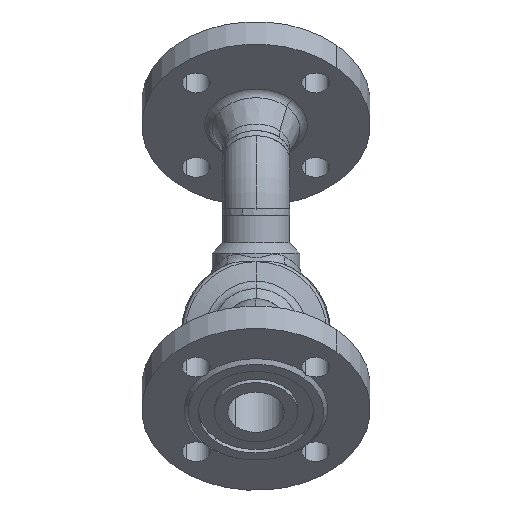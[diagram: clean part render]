
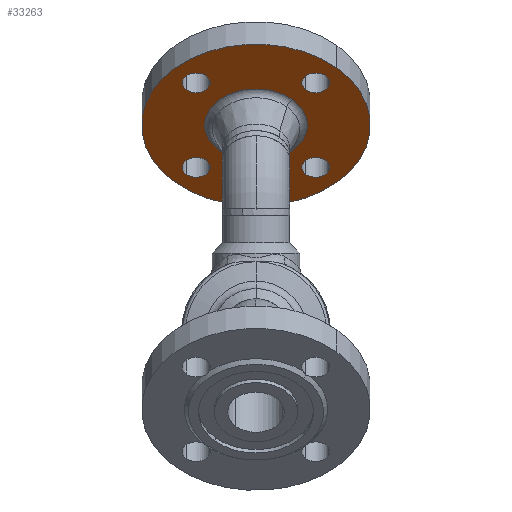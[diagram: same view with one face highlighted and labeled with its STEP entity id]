
A CAD part, front view. The second image highlights one B-rep face of the part: STEP entity #33263.
In plain terms, the highlighted planar face has unit normal (0, -0.707, -0.707) as drawn and (0, 1, 0) by its records, which use the part's own axes.
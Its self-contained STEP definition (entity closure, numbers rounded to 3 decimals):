
#151 = ORIENTED_EDGE ( 'NONE', *, *, #5620, .F. ) ;
#33109 = EDGE_CURVE ( 'NONE', #16860, #2327, #46082, .T. ) ;
#49539 = VERTEX_POINT ( 'NONE', #33256 ) ;
#16860 = VERTEX_POINT ( 'NONE', #31614 ) ;
#33256 = CARTESIAN_POINT ( 'NONE',  ( 35.5, 18., 0. ) ) ;
#33263 = ADVANCED_FACE ( 'NONE', ( #46277, #46278, #46279, #46280, #46281, #46282 ), #46283, .F. ) ;
#1110 = EDGE_CURVE ( 'NONE', #9561, #2633, #40113, .T. ) ;
#17508 = ORIENTED_EDGE ( 'NONE', *, *, #19977, .F. ) ;
#1266 = CARTESIAN_POINT ( 'NONE',  ( -25.748, 18., 0. ) ) ;
#34115 = ORIENTED_EDGE ( 'NONE', *, *, #33109, .T. ) ;
#1970 = VERTEX_POINT ( 'NONE', #1266 ) ;
#18468 = EDGE_LOOP ( 'NONE', ( #13672, #11791 ) ) ;
#18470 = ORIENTED_EDGE ( 'NONE', *, *, #45045, .F. ) ;
#2327 = VERTEX_POINT ( 'NONE', #11945 ) ;
#18921 = ORIENTED_EDGE ( 'NONE', *, *, #1110, .F. ) ;
#2581 = EDGE_CURVE ( 'NONE', #49539, #3188, #12365, .T. ) ;
#2633 = VERTEX_POINT ( 'NONE', #12407 ) ;
#35524 = ORIENTED_EDGE ( 'NONE', *, *, #6436, .T. ) ;
#19526 = EDGE_LOOP ( 'NONE', ( #18470, #14534 ) ) ;
#3188 = VERTEX_POINT ( 'NONE', #12769 ) ;
#19977 = EDGE_CURVE ( 'NONE', #2633, #9561, #44081, .T. ) ;
#3744 = EDGE_CURVE ( 'NONE', #41959, #1970, #12975, .T. ) ;
#21396 = VERTEX_POINT ( 'NONE', #7794 ) ;
#5111 = VERTEX_POINT ( 'NONE', #21764 ) ;
#21764 = CARTESIAN_POINT ( 'NONE',  ( -7., 18., 42.5 ) ) ;
#5620 = EDGE_CURVE ( 'NONE', #38418, #5111, #22212, .T. ) ;
#38418 = VERTEX_POINT ( 'NONE', #29096 ) ;
#22159 = ORIENTED_EDGE ( 'NONE', *, *, #2581, .F. ) ;
#22212 = CIRCLE ( 'NONE', #22213, 7. ) ;
#22213 = AXIS2_PLACEMENT_3D ( 'NONE', #22214, #22215, #22216 ) ;
#22214 = CARTESIAN_POINT ( 'NONE',  ( 0., 18., 42.5 ) ) ;
#22215 = DIRECTION ( 'NONE',  ( 0., 1., 0. ) ) ;
#22216 = DIRECTION ( 'NONE',  ( 0., 0., -1. ) ) ;
#22461 = CIRCLE ( 'NONE', #22462, 7. ) ;
#22462 = AXIS2_PLACEMENT_3D ( 'NONE', #22463, #22464, #22465 ) ;
#22463 = CARTESIAN_POINT ( 'NONE',  ( 0., 18., 42.5 ) ) ;
#22464 = DIRECTION ( 'NONE',  ( 0., 1., 0. ) ) ;
#22465 = DIRECTION ( 'NONE',  ( 0., 0., -1. ) ) ;
#6436 = EDGE_CURVE ( 'NONE', #2327, #16860, #44718, .T. ) ;
#39241 = EDGE_CURVE ( 'NONE', #3188, #49539, #30005, .T. ) ;
#6630 = CIRCLE ( 'NONE', #6631, 25.748 ) ;
#6631 = AXIS2_PLACEMENT_3D ( 'NONE', #6632, #6633, #6634 ) ;
#6632 = CARTESIAN_POINT ( 'NONE',  ( 0., 18., 0. ) ) ;
#6633 = DIRECTION ( 'NONE',  ( 0., 1., 0. ) ) ;
#6634 = DIRECTION ( 'NONE',  ( -1., 0., 0. ) ) ;
#39895 = CARTESIAN_POINT ( 'NONE',  ( -35.5, 18., 0. ) ) ;
#40113 = CIRCLE ( 'NONE', #40114, 7. ) ;
#40114 = AXIS2_PLACEMENT_3D ( 'NONE', #40149, #40150, #40151 ) ;
#40149 = CARTESIAN_POINT ( 'NONE',  ( 0., 18., -42.5 ) ) ;
#40150 = DIRECTION ( 'NONE',  ( 0., 1., 0. ) ) ;
#40151 = DIRECTION ( 'NONE',  ( 0., 0., 1. ) ) ;
#7794 = CARTESIAN_POINT ( 'NONE',  ( -49.5, 18., 0. ) ) ;
#41959 = VERTEX_POINT ( 'NONE', #32226 ) ;
#9561 = VERTEX_POINT ( 'NONE', #47804 ) ;
#9666 = EDGE_CURVE ( 'NONE', #26787, #21396, #47891, .T. ) ;
#42765 = EDGE_LOOP ( 'NONE', ( #22159, #43883 ) ) ;
#26787 = VERTEX_POINT ( 'NONE', #39895 ) ;
#43883 = ORIENTED_EDGE ( 'NONE', *, *, #39241, .F. ) ;
#44081 = CIRCLE ( 'NONE', #44082, 7. ) ;
#44082 = AXIS2_PLACEMENT_3D ( 'NONE', #44117, #44118, #44119 ) ;
#44117 = CARTESIAN_POINT ( 'NONE',  ( 0., 18., -42.5 ) ) ;
#44118 = DIRECTION ( 'NONE',  ( 0., 1., 0. ) ) ;
#44119 = DIRECTION ( 'NONE',  ( 0., 0., 1. ) ) ;
#11638 = ORIENTED_EDGE ( 'NONE', *, *, #31893, .F. ) ;
#28086 = CIRCLE ( 'NONE', #28087, 7. ) ;
#28087 = AXIS2_PLACEMENT_3D ( 'NONE', #28088, #28089, #28129 ) ;
#28088 = CARTESIAN_POINT ( 'NONE',  ( -42.5, 18., 0. ) ) ;
#28089 = DIRECTION ( 'NONE',  ( 0., 1., 0. ) ) ;
#28129 = DIRECTION ( 'NONE',  ( 1., 0., 0. ) ) ;
#11791 = ORIENTED_EDGE ( 'NONE', *, *, #9666, .F. ) ;
#11945 = CARTESIAN_POINT ( 'NONE',  ( -57.5, 18., 0. ) ) ;
#44718 = CIRCLE ( 'NONE', #44719, 57.5 ) ;
#44719 = AXIS2_PLACEMENT_3D ( 'NONE', #44720, #44721, #44722 ) ;
#44720 = CARTESIAN_POINT ( 'NONE',  ( 0., 18., 0. ) ) ;
#44721 = DIRECTION ( 'NONE',  ( 0., 1., 0. ) ) ;
#44722 = DIRECTION ( 'NONE',  ( -1., 0., 0. ) ) ;
#44892 = EDGE_LOOP ( 'NONE', ( #17508, #18921 ) ) ;
#45045 = EDGE_CURVE ( 'NONE', #1970, #41959, #6630, .T. ) ;
#12365 = CIRCLE ( 'NONE', #12366, 7. ) ;
#12366 = AXIS2_PLACEMENT_3D ( 'NONE', #12367, #12368, #12369 ) ;
#12367 = CARTESIAN_POINT ( 'NONE',  ( 42.5, 18., 0. ) ) ;
#12368 = DIRECTION ( 'NONE',  ( 0., 1., 0. ) ) ;
#12369 = DIRECTION ( 'NONE',  ( -1., 0., 0. ) ) ;
#12407 = CARTESIAN_POINT ( 'NONE',  ( -7., 18., -42.5 ) ) ;
#29096 = CARTESIAN_POINT ( 'NONE',  ( 7., 18., 42.5 ) ) ;
#12755 = EDGE_CURVE ( 'NONE', #21396, #26787, #28086, .T. ) ;
#12769 = CARTESIAN_POINT ( 'NONE',  ( 49.5, 18., 0. ) ) ;
#12975 = CIRCLE ( 'NONE', #12976, 25.748 ) ;
#12976 = AXIS2_PLACEMENT_3D ( 'NONE', #12977, #12978, #12979 ) ;
#12977 = CARTESIAN_POINT ( 'NONE',  ( 0., 18., 0. ) ) ;
#12978 = DIRECTION ( 'NONE',  ( 0., 1., 0. ) ) ;
#12979 = DIRECTION ( 'NONE',  ( -1., 0., 0. ) ) ;
#13066 = EDGE_LOOP ( 'NONE', ( #11638, #151 ) ) ;
#46082 = CIRCLE ( 'NONE', #46083, 57.5 ) ;
#46083 = AXIS2_PLACEMENT_3D ( 'NONE', #46084, #46085, #46086 ) ;
#46084 = CARTESIAN_POINT ( 'NONE',  ( 0., 18., 0. ) ) ;
#46085 = DIRECTION ( 'NONE',  ( 0., 1., 0. ) ) ;
#46086 = DIRECTION ( 'NONE',  ( -1., 0., 0. ) ) ;
#46277 = FACE_BOUND ( 'NONE', #44892, .T. ) ;
#46278 = FACE_BOUND ( 'NONE', #18468, .T. ) ;
#46279 = FACE_BOUND ( 'NONE', #13066, .T. ) ;
#46280 = FACE_BOUND ( 'NONE', #42765, .T. ) ;
#46281 = FACE_BOUND ( 'NONE', #19526, .T. ) ;
#46282 = FACE_OUTER_BOUND ( 'NONE', #13975, .T. ) ;
#46283 = PLANE ( 'NONE',  #46284 ) ;
#46284 = AXIS2_PLACEMENT_3D ( 'NONE', #46285, #46286, #46287 ) ;
#46285 = CARTESIAN_POINT ( 'NONE',  ( 57.5, 18., 0. ) ) ;
#46286 = DIRECTION ( 'NONE',  ( 0., -1., 0. ) ) ;
#46287 = DIRECTION ( 'NONE',  ( 1., 0., 0. ) ) ;
#30005 = CIRCLE ( 'NONE', #30006, 7. ) ;
#30006 = AXIS2_PLACEMENT_3D ( 'NONE', #30007, #30008, #30009 ) ;
#30007 = CARTESIAN_POINT ( 'NONE',  ( 42.5, 18., 0. ) ) ;
#30008 = DIRECTION ( 'NONE',  ( 0., 1., 0. ) ) ;
#30009 = DIRECTION ( 'NONE',  ( -1., 0., 0. ) ) ;
#13672 = ORIENTED_EDGE ( 'NONE', *, *, #12755, .F. ) ;
#13975 = EDGE_LOOP ( 'NONE', ( #35524, #34115 ) ) ;
#14534 = ORIENTED_EDGE ( 'NONE', *, *, #3744, .F. ) ;
#47804 = CARTESIAN_POINT ( 'NONE',  ( 7., 18., -42.5 ) ) ;
#47891 = CIRCLE ( 'NONE', #47892, 7. ) ;
#47892 = AXIS2_PLACEMENT_3D ( 'NONE', #47893, #47894, #47895 ) ;
#47893 = CARTESIAN_POINT ( 'NONE',  ( -42.5, 18., 0. ) ) ;
#47894 = DIRECTION ( 'NONE',  ( 0., 1., 0. ) ) ;
#47895 = DIRECTION ( 'NONE',  ( 1., 0., 0. ) ) ;
#31614 = CARTESIAN_POINT ( 'NONE',  ( 57.5, 18., 0. ) ) ;
#31893 = EDGE_CURVE ( 'NONE', #5111, #38418, #22461, .T. ) ;
#32226 = CARTESIAN_POINT ( 'NONE',  ( 25.748, 18., 0. ) ) ;
